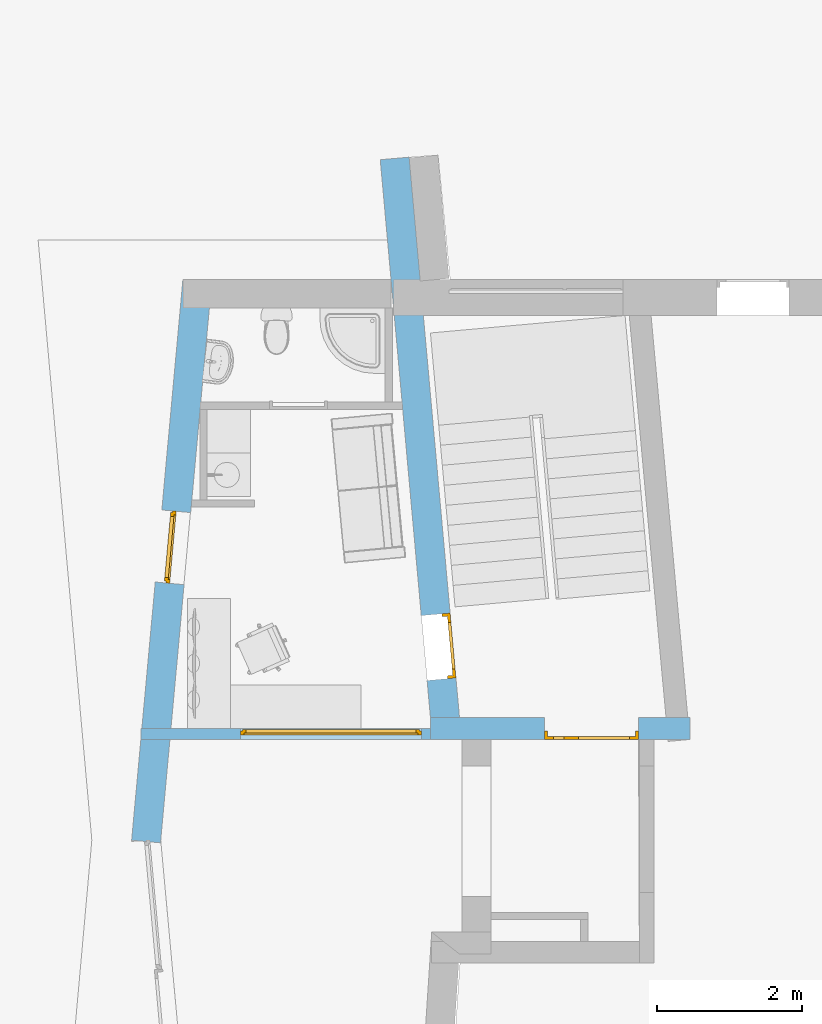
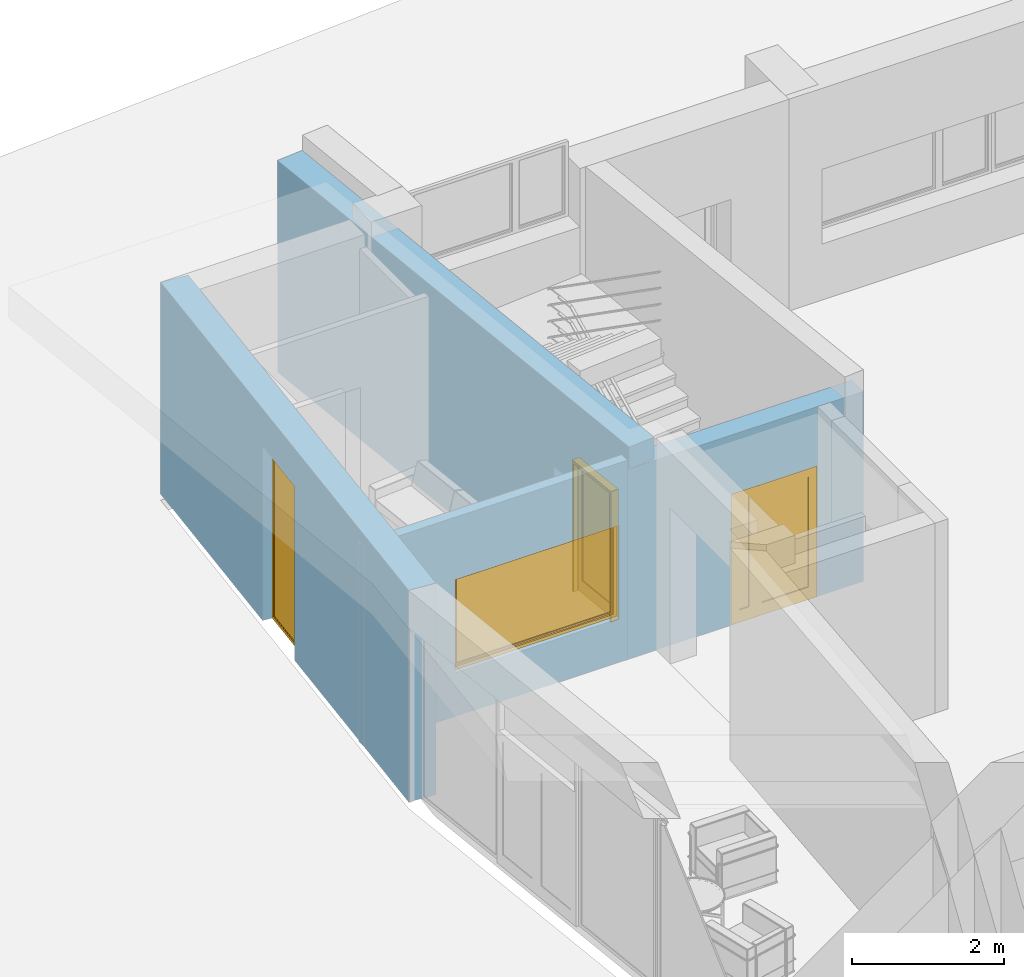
# One storey, part 15 of 36: 2 doors, 2 windows, 4 openings, plus 4 elements that do not belong to this part.
"""IFC2X3 building model written with IfcOpenShell, lengths in millimetres."""

from ifc_helpers import new_model, entity, si_unit, converted_unit, money_unit, direction, frame, origin_with_axes, place, context, subcontext, project, spatial, polyline, outline, extrude, open_shell, faceted_brep, surface_model, material, material_list, layer, layer_set, layer_usage, type_object, element, fill, save


model = new_model("IFC2X3")

# Units and contexts
model_context = context("Model", 3, precision=1e-05, world=origin_with_axes(), true_north=direction((0.0, 1.0)))
body_context = subcontext(model_context, "Body", "Model", "MODEL_VIEW")
ifc_project = project(units=[si_unit("LENGTHUNIT", "METRE", prefix="MILLI"), si_unit("AREAUNIT", "SQUARE_METRE"), si_unit("VOLUMEUNIT", "CUBIC_METRE"), converted_unit("PLANEANGLEUNIT", "DEGREE", entity("IfcPlaneAngleMeasure", 0.0174532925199), si_unit("PLANEANGLEUNIT", "RADIAN"), dimensions=[0, 0, 0, 0, 0, 0, 0]), si_unit("SOLIDANGLEUNIT", "STERADIAN"), money_unit("USD"), converted_unit("TIMEUNIT", "Year", entity("IfcTimeMeasure", 31556926.0), si_unit("TIMEUNIT", "SECOND"), dimensions=[0, 0, 0, 0, 0, 0, 0]), si_unit("MASSUNIT", "GRAM"), si_unit("THERMODYNAMICTEMPERATUREUNIT", "DEGREE_CELSIUS"), si_unit("LUMINOUSINTENSITYUNIT", "LUMEN")], contexts=[model_context])

# Site, building, storey
site_placement = place(None, origin_with_axes())
site = spatial("IfcSite", under=ifc_project, at=site_placement, Name="Site", CompositionType="ELEMENT")
building_placement = place(site_placement, origin_with_axes())
building = spatial("IfcBuilding", under=site, at=building_placement, Name="Building", CompositionType="ELEMENT")
storey_placement = place(building_placement, frame((0.0, 0.0, -3400.0), z_axis=(0.0, 0.0, 1.0), x_axis=(1.0, 0.0, 0.0)))
storey = spatial("IfcBuildingStorey", under=building, at=storey_placement, Name="1KORRUS", CompositionType="ELEMENT", Elevation=-3400.0)

# Wall, opening, door
ifc_material_1 = material(Name="Olemasolevad seinad tellis, uus viimistlus")
ifc_layer_1 = layer(ifc_material_1, 400.0, ventilated="UNKNOWN")
ifc_layer_set_1 = layer_set([ifc_layer_1], Name="Olemasolevad seinad tellis, uus viimistlus 400")
ifc_layer_usage_1 = layer_usage(ifc_layer_set_1, "AXIS2", "POSITIVE", -400.0)
wall_type_1 = type_object("IfcWallType", Name="Olemasolevad seinad tellis, uus viimistlus 400", PredefinedType="NOTDEFINED")
wall_1_placement = place(storey_placement, frame((-54200.5997828, -10997.6526712, 0.0), z_axis=(0.0, 0.0, 1.0), x_axis=(-0.0895981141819, 0.995978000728, 0.0)))
wall_1 = element("IfcWallStandardCase", 1, at=wall_1_placement, inside=storey, type_object=wall_type_1, material=ifc_layer_usage_1, Name="VS1", ObjectType="VS1", context=body_context, shape_type="SweptSolid", body=[
    extrude(outline(polyline([(0.0, -400.0), (8042.03298677, -400.0), (8042.03298677, 0.0), (0.0, 0.0), (0.0, -400.0)])), origin_with_axes(), (0.0, 0.0, 1.0), 3400.0),
])
opening_1_placement = place(wall_1_placement, frame((1267.27481018, 0.0, 0.0), z_axis=(0.0, 0.0, 1.0), x_axis=(1.0, 0.0, 0.0)))
opening_1 = element("IfcOpeningElement", 2, at=opening_1_placement, cuts=wall_1, Name="SU7", context=body_context, shape_type="SweptSolid", body=[
    extrude(outline(polyline([(-450.0, -2100.0), (450.0, -2100.0), (450.0, 0.0), (-450.0, 0.0), (-450.0, -2100.0)])), frame((0.0, 400.0, 0.0), z_axis=(0.0, -1.0, 0.0), x_axis=(-1.0, 0.0, 0.0)), (0.0, 0.0, 1.0), 1200.0),
])
ifc_material_2 = material(Name="Background")
ifc_material_list = material_list([ifc_material_2])
door_style_1 = type_object("IfcDoorStyle", Name="Door 19", ConstructionType="NOTDEFINED", OperationType="SINGLE_SWING_RIGHT", ParameterTakesPrecedence=False, Sizeable=False)
door_1_placement = place(opening_1_placement, frame((450.0, 0.0, 0.0), z_axis=(0.0, 0.0, 1.0), x_axis=(-1.0, 0.0, 0.0)))
door_1 = element("IfcDoor", 3, at=door_1_placement, inside=storey, type_object=door_style_1, material=ifc_material_list, Name="SU7", ObjectType="Trepkoja uks", OverallHeight=2100.0, OverallWidth=900.0, context=body_context, shape_type="SurfaceModel", body=[
    faceted_brep([(40.0, 360.0, 0.0), (40.0, 360.0, 2060.0), (40.0, 285.0, 2060.0), (40.0, 285.0, 0.0), (28.0, 360.0, 2060.0), (28.0, 360.0, 0.0), (28.0, 400.0, 2060.0), (0.0, 400.0, 2060.0), (0.0, 285.0, 2060.0), (0.0, 285.0, 0.0), (0.0, 400.0, 0.0), (28.0, 400.0, 0.0)], [[[0, 1, 2, 3]], [[4, 1, 0, 5]], [[4, 6, 7, 8, 2, 1]], [[2, 8, 9, 3]], [[5, 0, 3, 9, 10, 11]], [[6, 4, 5, 11]], [[6, 11, 10, 7]], [[9, 8, 7, 10]]]),
    faceted_brep([(872.0, 360.0, 2060.0), (860.0, 360.0, 2060.0), (860.0, 285.0, 2060.0), (900.0, 285.0, 2060.0), (900.0, 400.0, 2060.0), (872.0, 400.0, 2060.0), (872.0, 360.0, 0.0), (860.0, 360.0, 0.0), (860.0, 285.0, 0.0), (900.0, 285.0, 0.0), (900.0, 400.0, 0.0), (872.0, 400.0, 0.0)], [[[0, 1, 2, 3, 4, 5]], [[1, 0, 6, 7]], [[1, 7, 8, 2]], [[2, 8, 9, 3]], [[3, 9, 10, 4]], [[11, 5, 4, 10]], [[0, 5, 11, 6]], [[6, 11, 10, 9, 8, 7]]]),
    faceted_brep([(28.0, 400.0, 2072.0), (28.0, 400.0, 2060.0), (0.0, 400.0, 2060.0), (0.0, 400.0, 2100.0), (900.0, 400.0, 2100.0), (900.0, 400.0, 2060.0), (872.0, 400.0, 2060.0), (872.0, 400.0, 2072.0), (28.0, 360.0, 2072.0), (28.0, 360.0, 2060.0), (40.0, 360.0, 2060.0), (40.0, 285.0, 2060.0), (0.0, 285.0, 2060.0), (0.0, 285.0, 2100.0), (900.0, 285.0, 2100.0), (900.0, 285.0, 2060.0), (872.0, 360.0, 2060.0), (860.0, 285.0, 2060.0), (860.0, 360.0, 2060.0), (872.0, 360.0, 2072.0)], [[[0, 1, 2, 3, 4, 5, 6, 7]], [[1, 0, 8, 9]], [[9, 10, 11, 12, 2, 1]], [[12, 13, 3, 2]], [[13, 14, 4, 3]], [[14, 15, 5, 4]], [[16, 6, 5, 15, 17, 18]], [[7, 6, 16, 19]], [[0, 7, 19, 8]], [[16, 18, 10, 9, 8, 19]], [[10, 18, 17, 11]], [[15, 14, 13, 12, 11, 17]]]),
    faceted_brep([(872.0, 400.0, 200.0), (872.0, 360.0, 200.0), (772.0, 360.0, 200.0), (772.0, 400.0, 200.0), (872.0, 400.0, 1972.0), (872.0, 360.0, 1972.0), (772.0, 360.0, 1972.0), (772.0, 400.0, 1972.0)], [[[0, 1, 2, 3]], [[4, 5, 1, 0]], [[1, 5, 6, 2]], [[3, 2, 6, 7]], [[0, 3, 7, 4]], [[7, 6, 5, 4]]]),
    faceted_brep([(28.0, 400.0, 200.0), (28.0, 360.0, 200.0), (28.0, 360.0, 1972.0), (28.0, 400.0, 1972.0), (128.0, 400.0, 200.0), (128.0, 360.0, 200.0), (128.0, 360.0, 1972.0), (128.0, 400.0, 1972.0)], [[[0, 1, 2, 3]], [[4, 5, 1, 0]], [[1, 5, 6, 2]], [[3, 2, 6, 7]], [[0, 3, 7, 4]], [[7, 6, 5, 4]]]),
    faceted_brep([(872.0, 400.0, 0.0), (872.0, 360.0, 0.0), (28.0, 360.0, 0.0), (28.0, 400.0, 0.0), (872.0, 400.0, 200.0), (872.0, 360.0, 200.0), (772.0, 360.0, 200.0), (128.0, 360.0, 200.0), (28.0, 360.0, 200.0), (28.0, 400.0, 200.0), (128.0, 400.0, 200.0), (772.0, 400.0, 200.0)], [[[0, 1, 2, 3]], [[4, 5, 1, 0]], [[1, 5, 6, 7, 8, 2]], [[3, 2, 8, 9]], [[0, 3, 9, 10, 11, 4]], [[11, 6, 5, 4]], [[10, 7, 6, 11]], [[9, 8, 7, 10]]]),
    faceted_brep([(872.0, 400.0, 2072.0), (872.0, 360.0, 2072.0), (872.0, 360.0, 1972.0), (872.0, 400.0, 1972.0), (28.0, 400.0, 2072.0), (28.0, 360.0, 2072.0), (28.0, 360.0, 1972.0), (128.0, 360.0, 1972.0), (772.0, 360.0, 1972.0), (772.0, 400.0, 1972.0), (128.0, 400.0, 1972.0), (28.0, 400.0, 1972.0)], [[[0, 1, 2, 3]], [[4, 5, 1, 0]], [[1, 5, 6, 7, 8, 2]], [[3, 2, 8, 9]], [[0, 3, 9, 10, 11, 4]], [[11, 6, 5, 4]], [[10, 7, 6, 11]], [[9, 8, 7, 10]]]),
    surface_model("IfcShellBasedSurfaceModel", [(772.0, 386.0, 200.0), (128.0, 386.0, 200.0), (128.0, 386.0, 1972.0), (772.0, 386.0, 1972.0)], [open_shell([[[0, 1, 2, 3]]])]),
    surface_model("IfcShellBasedSurfaceModel", [(772.0, 374.0, 200.0), (772.0, 374.0, 1972.0), (128.0, 374.0, 1972.0), (128.0, 374.0, 200.0)], [open_shell([[[0, 1, 2, 3]]])]),
])
fill(opening_1, door_1)

# Wall, opening, window
ifc_material_3 = material(Name="Plaat")
ifc_layer_2 = layer(ifc_material_3, 200.0, ventilated="UNKNOWN")
ifc_material_4 = material(Name="Kergplokk")
ifc_layer_3 = layer(ifc_material_4, 200.0, ventilated="UNKNOWN")
ifc_layer_set_2 = layer_set([ifc_layer_2, ifc_layer_3], Name="VS2 Uus välissein kergplokk, soojustus, plaat (1)")
ifc_layer_usage_2 = layer_usage(ifc_layer_set_2, "AXIS2", "POSITIVE", 0.0)
wall_type_2 = type_object("IfcWallType", Name="VS2 Uus välissein kergplokk, soojustus, plaat 400", PredefinedType="NOTDEFINED")
wall_2_placement = place(storey_placement, frame((-57647.6401026, -4639.6041088, 0.0), z_axis=(0.0, 0.0, 1.0), x_axis=(-0.0910473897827, -0.995846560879, 0.0)))
wall_2 = element("IfcWallStandardCase", 4, at=wall_2_placement, inside=storey, type_object=wall_type_2, material=ifc_layer_usage_2, Name="VS2", ObjectType="VS2", context=body_context, shape_type="SweptSolid", body=[
    extrude(outline(polyline([(0.0, 0.0), (7782.94701514, 0.0), (7782.94701514, 400.0), (0.0, 400.0), (0.0, 0.0)])), origin_with_axes(), (0.0, 0.0, 1.0), 3400.0),
])
opening_2_placement = place(wall_2_placement, frame((3700.47568356, 0.0, 0.0), z_axis=(0.0, 0.0, 1.0), x_axis=(1.0, 0.0, 0.0)))
opening_2 = element("IfcOpeningElement", 5, at=opening_2_placement, cuts=wall_2, Name="A6", context=body_context, shape_type="SweptSolid", body=[
    extrude(outline(polyline([(500.0, 2800.0), (-500.0, 2800.0), (-500.0, 0.0), (500.0, 0.0), (500.0, 2800.0)])), frame((0.0, 150.0, 0.0), z_axis=(0.0, 1.0, 0.0), x_axis=(-1.0, 0.0, 0.0)), (0.0, 0.0, 1.0), 650.0),
    extrude(outline(polyline([(500.0, 0.0), (-500.0, 0.0), (-500.0, -2800.0), (500.0, -2800.0), (500.0, 0.0)])), frame((0.0, 150.0, 0.0), z_axis=(0.0, -1.0, 0.0), x_axis=(-1.0, 0.0, 0.0)), (0.0, 0.0, 1.0), 550.0),
])
window_style_1 = type_object("IfcWindowStyle", Name="Window 19", ConstructionType="NOTDEFINED", OperationType="SINGLE_PANEL", ParameterTakesPrecedence=False, Sizeable=False)
window_1_placement = place(opening_2_placement, frame((500.0, 0.0, 0.0), z_axis=(0.0, 0.0, 1.0), x_axis=(-1.0, 0.0, 0.0)))
window_1 = element("IfcWindow", 6, at=window_1_placement, inside=storey, type_object=window_style_1, material=ifc_material_list, Name="A6", ObjectType="A6", OverallHeight=2800.0, OverallWidth=1000.0, context=body_context, shape_type="SurfaceModel", body=[
    faceted_brep([(975.0, -150.0, 2750.0), (975.0, -175.0, 2750.0), (950.0, -175.0, 2750.0), (950.0, -200.0, 2750.0), (1000.0, -200.0, 2750.0), (1000.0, -150.0, 2750.0), (975.0, -150.0, 50.0), (975.0, -175.0, 50.0), (950.0, -175.0, 50.0), (950.0, -200.0, 50.0), (1000.0, -200.0, 50.0), (1000.0, -150.0, 50.0)], [[[0, 1, 2, 3, 4, 5]], [[1, 0, 6, 7]], [[8, 2, 1, 7]], [[2, 8, 9, 3]], [[4, 3, 9, 10]], [[5, 4, 10, 11]], [[6, 0, 5, 11]], [[7, 6, 11, 10, 9, 8]]]),
    faceted_brep([(50.0, -175.0, 2750.0), (25.0, -175.0, 2750.0), (25.0, -150.0, 2750.0), (0.0, -150.0, 2750.0), (0.0, -200.0, 2750.0), (50.0, -200.0, 2750.0), (50.0, -175.0, 50.0), (25.0, -175.0, 50.0), (25.0, -150.0, 50.0), (0.0, -150.0, 50.0), (0.0, -200.0, 50.0), (50.0, -200.0, 50.0)], [[[0, 1, 2, 3, 4, 5]], [[1, 0, 6, 7]], [[8, 2, 1, 7]], [[2, 8, 9, 3]], [[9, 10, 4, 3]], [[10, 11, 5, 4]], [[6, 0, 5, 11]], [[7, 6, 11, 10, 9, 8]]]),
    faceted_brep([(50.0, -175.0, 50.0), (25.0, -175.0, 50.0), (25.0, -150.0, 50.0), (0.0, -150.0, 50.0), (0.0, -200.0, 50.0), (50.0, -200.0, 50.0), (950.0, -175.0, 50.0), (975.0, -175.0, 50.0), (975.0, -175.0, 25.0), (25.0, -175.0, 25.0), (25.0, -150.0, 25.0), (975.0, -150.0, 25.0), (975.0, -150.0, 50.0), (1000.0, -150.0, 50.0), (1000.0, -150.0, 0.0), (0.0, -150.0, 0.0), (0.0, -200.0, 0.0), (1000.0, -200.0, 50.0), (950.0, -200.0, 50.0), (1000.0, -200.0, 0.0)], [[[0, 1, 2, 3, 4, 5]], [[1, 0, 6, 7, 8, 9]], [[10, 2, 1, 9]], [[11, 12, 13, 14, 15, 3, 2, 10]], [[15, 16, 4, 3]], [[17, 18, 5, 4, 16, 19]], [[6, 0, 5, 18]], [[7, 6, 18, 17, 13, 12]], [[7, 12, 11, 8]], [[11, 10, 9, 8]], [[13, 17, 19, 14]], [[14, 19, 16, 15]]]),
    faceted_brep([(975.0, -150.0, 2750.0), (975.0, -150.0, 2775.0), (25.0, -150.0, 2775.0), (25.0, -150.0, 2750.0), (0.0, -150.0, 2750.0), (0.0, -150.0, 2800.0), (1000.0, -150.0, 2800.0), (1000.0, -150.0, 2750.0), (975.0, -175.0, 2750.0), (975.0, -175.0, 2775.0), (25.0, -175.0, 2775.0), (25.0, -175.0, 2750.0), (50.0, -175.0, 2750.0), (50.0, -200.0, 2750.0), (0.0, -200.0, 2750.0), (0.0, -200.0, 2800.0), (1000.0, -200.0, 2800.0), (1000.0, -200.0, 2750.0), (950.0, -200.0, 2750.0), (950.0, -175.0, 2750.0)], [[[0, 1, 2, 3, 4, 5, 6, 7]], [[1, 0, 8, 9]], [[2, 1, 9, 10]], [[3, 2, 10, 11]], [[11, 12, 13, 14, 4, 3]], [[4, 14, 15, 5]], [[5, 15, 16, 6]], [[6, 16, 17, 7]], [[8, 0, 7, 17, 18, 19]], [[12, 11, 10, 9, 8, 19]], [[12, 19, 18, 13]], [[14, 13, 18, 17, 16, 15]]]),
    faceted_brep([(925.0, -175.0, 2725.0), (975.0, -175.0, 2725.0), (975.0, -125.0, 2725.0), (925.0, -125.0, 2725.0), (925.0, -175.0, 75.0), (975.0, -175.0, 75.0), (975.0, -125.0, 75.0), (925.0, -125.0, 75.0)], [[[0, 1, 2, 3]], [[0, 4, 5, 1]], [[1, 5, 6, 2]], [[3, 2, 6, 7]], [[4, 0, 3, 7]], [[5, 4, 7, 6]]]),
    faceted_brep([(75.0, -175.0, 75.0), (25.0, -175.0, 75.0), (25.0, -125.0, 75.0), (75.0, -125.0, 75.0), (75.0, -175.0, 2725.0), (25.0, -175.0, 2725.0), (25.0, -125.0, 2725.0), (75.0, -125.0, 2725.0)], [[[0, 1, 2, 3]], [[0, 4, 5, 1]], [[1, 5, 6, 2]], [[3, 2, 6, 7]], [[4, 0, 3, 7]], [[5, 4, 7, 6]]]),
    faceted_brep([(25.0, -175.0, 25.0), (25.0, -175.0, 75.0), (25.0, -125.0, 75.0), (25.0, -125.0, 25.0), (975.0, -175.0, 25.0), (975.0, -175.0, 75.0), (925.0, -175.0, 75.0), (75.0, -175.0, 75.0), (75.0, -125.0, 75.0), (925.0, -125.0, 75.0), (975.0, -125.0, 75.0), (975.0, -125.0, 25.0)], [[[0, 1, 2, 3]], [[0, 4, 5, 6, 7, 1]], [[1, 7, 8, 2]], [[3, 2, 8, 9, 10, 11]], [[4, 0, 3, 11]], [[5, 4, 11, 10]], [[6, 5, 10, 9]], [[7, 6, 9, 8]]]),
    faceted_brep([(975.0, -175.0, 2775.0), (975.0, -175.0, 2725.0), (975.0, -125.0, 2725.0), (975.0, -125.0, 2775.0), (25.0, -175.0, 2775.0), (25.0, -175.0, 2725.0), (75.0, -175.0, 2725.0), (925.0, -175.0, 2725.0), (925.0, -125.0, 2725.0), (75.0, -125.0, 2725.0), (25.0, -125.0, 2725.0), (25.0, -125.0, 2775.0)], [[[0, 1, 2, 3]], [[0, 4, 5, 6, 7, 1]], [[1, 7, 8, 2]], [[3, 2, 8, 9, 10, 11]], [[4, 0, 3, 11]], [[5, 4, 11, 10]], [[6, 5, 10, 9]], [[7, 6, 9, 8]]]),
    surface_model("IfcShellBasedSurfaceModel", [(925.0, -160.0, 75.0), (925.0, -160.0, 2725.0), (75.0, -160.0, 2725.0), (75.0, -160.0, 75.0)], [open_shell([[[0, 1, 2, 3]]])]),
    surface_model("IfcShellBasedSurfaceModel", [(925.0, -140.0, 75.0), (75.0, -140.0, 75.0), (75.0, -140.0, 2725.0), (925.0, -140.0, 2725.0)], [open_shell([[[0, 1, 2, 3]]])]),
])
fill(opening_2, window_1)

ifc_material_5 = material(Name="UmbKipsplaat")
ifc_layer_4 = layer(ifc_material_5, 13.0, ventilated="UNKNOWN")
ifc_layer_5 = layer(ifc_material_5, 13.0, ventilated="UNKNOWN")
ifc_material_6 = material(Name="SOOJUSTUS MINERAALVILL")
ifc_layer_6 = layer(ifc_material_6, 98.0, ventilated="UNKNOWN")
ifc_layer_7 = layer(ifc_material_5, 13.0, ventilated="UNKNOWN")
ifc_layer_8 = layer(ifc_material_5, 13.0, ventilated="UNKNOWN")
ifc_layer_set_3 = layer_set([ifc_layer_4, ifc_layer_5, ifc_layer_6, ifc_layer_7, ifc_layer_8], Name="kipssein150")
ifc_layer_usage_3 = layer_usage(ifc_layer_set_3, "AXIS2", "POSITIVE", 0.0)
wall_type_3 = type_object("IfcWallType", Name="kipssein150 150", PredefinedType="NOTDEFINED")
wall_3_placement = place(storey_placement, frame((-58228.9382147, -10997.6526712, 0.0), z_axis=(0.0, 0.0, 1.0), x_axis=(1.0, 0.0, 0.0)))
wall_3 = element("IfcWallStandardCase", 7, at=wall_3_placement, inside=storey, type_object=wall_type_3, material=ifc_layer_usage_3, Name="SS1", ObjectType="SS1", context=body_context, shape_type="SweptSolid", body=[
    extrude(outline(polyline([(0.0, 0.0), (4001.35045199, 0.0), (4001.35045199, 150.0), (0.0, 150.0), (0.0, 0.0)])), origin_with_axes(), (0.0, 0.0, 1.0), 3200.0),
])
opening_3_placement = place(wall_3_placement, frame((2628.33843188, 0.0, 700.0), z_axis=(0.0, 0.0, 1.0), x_axis=(1.0, 0.0, 0.0)))
opening_3 = element("IfcOpeningElement", 8, at=opening_3_placement, cuts=wall_3, Name="SA1", context=body_context, shape_type="SweptSolid", body=[
    extrude(outline(polyline([(-1250.0, 0.0), (-1250.0, -1500.0), (1250.0, -1500.0), (1250.0, 0.0), (-1250.0, 0.0)])), frame((0.0, 64.0, 0.0), z_axis=(0.0, 1.0, 0.0), x_axis=(1.0, 0.0, 0.0)), (0.0, 0.0, 1.0), 236.0),
    extrude(outline(polyline([(-1250.0, 1500.0), (-1250.0, 0.0), (1250.0, 0.0), (1250.0, 1500.0), (-1250.0, 1500.0)])), frame((0.0, 64.0, 0.0), z_axis=(0.0, -1.0, 0.0), x_axis=(1.0, 0.0, 0.0)), (0.0, 0.0, 1.0), 214.0),
])
window_style_2 = type_object("IfcWindowStyle", Name="Window 19", ConstructionType="NOTDEFINED", OperationType="SINGLE_PANEL", ParameterTakesPrecedence=False, Sizeable=False)
window_2_placement = place(opening_3_placement, frame((-1250.0, 0.0, 0.0), z_axis=(0.0, 0.0, 1.0), x_axis=(1.0, 0.0, 0.0)))
window_2 = element("IfcWindow", 9, at=window_2_placement, inside=storey, type_object=window_style_2, material=ifc_material_list, Name="SA1", ObjectType="KLA1", OverallHeight=1500.0, OverallWidth=2500.0, context=body_context, shape_type="SurfaceModel", body=[
    faceted_brep([(25.0, 114.0, 1450.0), (0.0, 114.0, 1450.0), (0.0, 64.0, 1450.0), (50.0, 64.0, 1450.0), (50.0, 89.0, 1450.0), (25.0, 89.0, 1450.0), (25.0, 114.0, 50.0), (0.0, 114.0, 50.0), (0.0, 64.0, 50.0), (50.0, 64.0, 50.0), (50.0, 89.0, 50.0), (25.0, 89.0, 50.0)], [[[0, 1, 2, 3, 4, 5]], [[6, 7, 1, 0]], [[1, 7, 8, 2]], [[2, 8, 9, 3]], [[4, 3, 9, 10]], [[10, 11, 5, 4]], [[5, 11, 6, 0]], [[11, 10, 9, 8, 7, 6]]]),
    faceted_brep([(2450.0, 89.0, 1450.0), (2450.0, 64.0, 1450.0), (2500.0, 64.0, 1450.0), (2500.0, 114.0, 1450.0), (2475.0, 114.0, 1450.0), (2475.0, 89.0, 1450.0), (2450.0, 89.0, 50.0), (2450.0, 64.0, 50.0), (2500.0, 64.0, 50.0), (2500.0, 114.0, 50.0), (2475.0, 114.0, 50.0), (2475.0, 89.0, 50.0)], [[[0, 1, 2, 3, 4, 5]], [[6, 7, 1, 0]], [[8, 2, 1, 7]], [[9, 3, 2, 8]], [[4, 3, 9, 10]], [[10, 11, 5, 4]], [[5, 11, 6, 0]], [[11, 10, 9, 8, 7, 6]]]),
    faceted_brep([(2450.0, 89.0, 50.0), (2450.0, 64.0, 50.0), (2500.0, 64.0, 50.0), (2500.0, 114.0, 50.0), (2475.0, 114.0, 50.0), (2475.0, 89.0, 50.0), (50.0, 89.0, 50.0), (50.0, 64.0, 50.0), (0.0, 64.0, 50.0), (0.0, 64.0, 0.0), (2500.0, 64.0, 0.0), (2500.0, 114.0, 0.0), (25.0, 114.0, 25.0), (2475.0, 114.0, 25.0), (0.0, 114.0, 0.0), (0.0, 114.0, 50.0), (25.0, 114.0, 50.0), (2475.0, 89.0, 25.0), (25.0, 89.0, 25.0), (25.0, 89.0, 50.0)], [[[0, 1, 2, 3, 4, 5]], [[6, 7, 1, 0]], [[8, 9, 10, 2, 1, 7]], [[11, 3, 2, 10]], [[12, 13, 4, 3, 11, 14, 15, 16]], [[13, 17, 5, 4]], [[5, 17, 18, 19, 6, 0]], [[19, 16, 15, 8, 7, 6]], [[15, 14, 9, 8]], [[14, 11, 10, 9]], [[12, 18, 17, 13]], [[19, 18, 12, 16]]]),
    faceted_brep([(25.0, 114.0, 1450.0), (0.0, 114.0, 1450.0), (0.0, 114.0, 1500.0), (2500.0, 114.0, 1500.0), (2500.0, 114.0, 1450.0), (2475.0, 114.0, 1450.0), (2475.0, 114.0, 1475.0), (25.0, 114.0, 1475.0), (25.0, 89.0, 1450.0), (50.0, 89.0, 1450.0), (50.0, 64.0, 1450.0), (0.0, 64.0, 1450.0), (0.0, 64.0, 1500.0), (2500.0, 64.0, 1500.0), (2500.0, 64.0, 1450.0), (2475.0, 89.0, 1450.0), (2450.0, 64.0, 1450.0), (2450.0, 89.0, 1450.0), (2475.0, 89.0, 1475.0), (25.0, 89.0, 1475.0)], [[[0, 1, 2, 3, 4, 5, 6, 7]], [[8, 9, 10, 11, 1, 0]], [[2, 1, 11, 12]], [[3, 2, 12, 13]], [[4, 3, 13, 14]], [[15, 5, 4, 14, 16, 17]], [[5, 15, 18, 6]], [[6, 18, 19, 7]], [[7, 19, 8, 0]], [[17, 9, 8, 19, 18, 15]], [[17, 16, 10, 9]], [[14, 13, 12, 11, 10, 16]]]),
    faceted_brep([(75.0, 89.0, 1425.0), (75.0, 139.0, 1425.0), (25.0, 139.0, 1425.0), (25.0, 89.0, 1425.0), (75.0, 89.0, 75.0), (75.0, 139.0, 75.0), (25.0, 139.0, 75.0), (25.0, 89.0, 75.0)], [[[0, 1, 2, 3]], [[4, 5, 1, 0]], [[1, 5, 6, 2]], [[3, 2, 6, 7]], [[0, 3, 7, 4]], [[7, 6, 5, 4]]]),
    faceted_brep([(2425.0, 89.0, 75.0), (2425.0, 139.0, 75.0), (2475.0, 139.0, 75.0), (2475.0, 89.0, 75.0), (2425.0, 89.0, 1425.0), (2425.0, 139.0, 1425.0), (2475.0, 139.0, 1425.0), (2475.0, 89.0, 1425.0)], [[[0, 1, 2, 3]], [[4, 5, 1, 0]], [[1, 5, 6, 2]], [[3, 2, 6, 7]], [[0, 3, 7, 4]], [[7, 6, 5, 4]]]),
    faceted_brep([(2475.0, 89.0, 25.0), (2475.0, 139.0, 25.0), (2475.0, 139.0, 75.0), (2475.0, 89.0, 75.0), (25.0, 89.0, 25.0), (25.0, 139.0, 25.0), (25.0, 139.0, 75.0), (75.0, 139.0, 75.0), (2425.0, 139.0, 75.0), (2425.0, 89.0, 75.0), (75.0, 89.0, 75.0), (25.0, 89.0, 75.0)], [[[0, 1, 2, 3]], [[4, 5, 1, 0]], [[1, 5, 6, 7, 8, 2]], [[3, 2, 8, 9]], [[0, 3, 9, 10, 11, 4]], [[11, 6, 5, 4]], [[10, 7, 6, 11]], [[9, 8, 7, 10]]]),
    faceted_brep([(25.0, 89.0, 1475.0), (25.0, 139.0, 1475.0), (25.0, 139.0, 1425.0), (25.0, 89.0, 1425.0), (2475.0, 89.0, 1475.0), (2475.0, 139.0, 1475.0), (2475.0, 139.0, 1425.0), (2425.0, 139.0, 1425.0), (75.0, 139.0, 1425.0), (75.0, 89.0, 1425.0), (2425.0, 89.0, 1425.0), (2475.0, 89.0, 1425.0)], [[[0, 1, 2, 3]], [[4, 5, 1, 0]], [[1, 5, 6, 7, 8, 2]], [[3, 2, 8, 9]], [[0, 3, 9, 10, 11, 4]], [[11, 6, 5, 4]], [[10, 7, 6, 11]], [[9, 8, 7, 10]]]),
    surface_model("IfcShellBasedSurfaceModel", [(75.0, 104.0, 75.0), (2425.0, 104.0, 75.0), (2425.0, 104.0, 1425.0), (75.0, 104.0, 1425.0)], [open_shell([[[0, 1, 2, 3]]])]),
    surface_model("IfcShellBasedSurfaceModel", [(75.0, 124.0, 75.0), (75.0, 124.0, 1425.0), (2425.0, 124.0, 1425.0), (2425.0, 124.0, 75.0)], [open_shell([[[0, 1, 2, 3]]])]),
])
fill(opening_3, window_2)

# Wall, opening, door
ifc_material_7 = material(Name="Olemasolevad seinad tellis, uus viimistlus")
ifc_layer_9 = layer(ifc_material_7, 300.0, ventilated="UNKNOWN")
ifc_layer_set_4 = layer_set([ifc_layer_9], Name="Olemasolevad seinad tellis, uus viimistlus  300")
ifc_layer_usage_4 = layer_usage(ifc_layer_set_4, "AXIS2", "POSITIVE", 0.0)
wall_type_4 = type_object("IfcWallType", Name="Olemasolevad seinad tellis, uus viimistlus  300", PredefinedType="NOTDEFINED")
wall_4_placement = place(storey_placement, frame((-54227.5877627, -10997.6526712, 0.0), z_axis=(0.0, 0.0, 1.0), x_axis=(1.0, 0.0, 0.0)))
wall_4 = element("IfcWallStandardCase", 10, at=wall_4_placement, inside=storey, type_object=wall_type_4, material=ifc_layer_usage_4, Name="KS1", ObjectType="KS1", context=body_context, shape_type="SweptSolid", body=[
    extrude(outline(polyline([(0.0, 0.0), (3583.80950921, 0.0), (3583.80950921, 300.0), (0.0, 300.0), (0.0, 0.0)])), origin_with_axes(), (0.0, 0.0, 1.0), 3050.0),
])
opening_4_placement = place(wall_4_placement, frame((2225.04730344, 0.0, 0.0), z_axis=(0.0, 0.0, 1.0), x_axis=(1.0, 0.0, 0.0)))
opening_4 = element("IfcOpeningElement", 11, at=opening_4_placement, cuts=wall_4, Name="SU4-1", context=body_context, shape_type="SweptSolid", body=[
    extrude(outline(polyline([(650.0, -2100.0), (650.0, 0.0), (-650.0, 0.0), (-650.0, -2100.0), (650.0, -2100.0)])), frame((0.0, 300.0, 0.0), z_axis=(0.0, -1.0, 0.0), x_axis=(-1.0, 0.0, 0.0)), (0.0, 0.0, 1.0), 900.0),
])
door_style_2 = type_object("IfcDoorStyle", Name="Double Door Asymmetric 19", ConstructionType="NOTDEFINED", OperationType="DOUBLE_DOOR_SINGLE_SWING", ParameterTakesPrecedence=False, Sizeable=False)
door_2_placement = place(opening_4_placement, frame((650.0, 0.0, 0.0), z_axis=(0.0, 0.0, 1.0), x_axis=(-1.0, 0.0, 0.0)))
door_2 = element("IfcDoor", 12, at=door_2_placement, inside=storey, type_object=door_style_2, material=ifc_material_list, Name="SU4-1", ObjectType="Trepkoja uks", OverallHeight=2100.0, OverallWidth=1300.0, context=body_context, shape_type="SurfaceModel", body=[
    faceted_brep([(1260.0, -40.0, 0.0), (1260.0, -115.0, 0.0), (1260.0, -115.0, 2060.0), (1260.0, -40.0, 2060.0), (1272.0, -40.0, 0.0), (1272.0, 0.0, 0.0), (1300.0, 0.0, 0.0), (1300.0, -115.0, 0.0), (1300.0, -115.0, 2060.0), (1272.0, -40.0, 2060.0), (1300.0, 0.0, 2060.0), (1272.0, 0.0, 2060.0)], [[[0, 1, 2, 3]], [[4, 5, 6, 7, 1, 0]], [[2, 1, 7, 8]], [[9, 3, 2, 8, 10, 11]], [[9, 4, 0, 3]], [[11, 5, 4, 9]], [[11, 10, 6, 5]], [[7, 6, 10, 8]]]),
    faceted_brep([(28.0, -40.0, 2060.0), (28.0, 0.0, 2060.0), (0.0, 0.0, 2060.0), (0.0, -115.0, 2060.0), (40.0, -115.0, 2060.0), (40.0, -40.0, 2060.0), (28.0, -40.0, 0.0), (28.0, 0.0, 0.0), (0.0, 0.0, 0.0), (0.0, -115.0, 0.0), (40.0, -115.0, 0.0), (40.0, -40.0, 0.0)], [[[0, 1, 2, 3, 4, 5]], [[0, 6, 7, 1]], [[7, 8, 2, 1]], [[3, 2, 8, 9]], [[4, 3, 9, 10]], [[5, 4, 10, 11]], [[5, 11, 6, 0]], [[6, 11, 10, 9, 8, 7]]]),
    faceted_brep([(1272.0, 0.0, 2072.0), (28.0, 0.0, 2072.0), (28.0, 0.0, 2060.0), (0.0, 0.0, 2060.0), (0.0, 0.0, 2100.0), (1300.0, 0.0, 2100.0), (1300.0, 0.0, 2060.0), (1272.0, 0.0, 2060.0), (1272.0, -40.0, 2072.0), (28.0, -40.0, 2072.0), (28.0, -40.0, 2060.0), (40.0, -40.0, 2060.0), (40.0, -115.0, 2060.0), (0.0, -115.0, 2060.0), (0.0, -115.0, 2100.0), (1300.0, -115.0, 2100.0), (1300.0, -115.0, 2060.0), (1272.0, -40.0, 2060.0), (1260.0, -115.0, 2060.0), (1260.0, -40.0, 2060.0)], [[[0, 1, 2, 3, 4, 5, 6, 7]], [[0, 8, 9, 1]], [[1, 9, 10, 2]], [[10, 11, 12, 13, 3, 2]], [[14, 4, 3, 13]], [[15, 5, 4, 14]], [[16, 6, 5, 15]], [[17, 7, 6, 16, 18, 19]], [[7, 17, 8, 0]], [[10, 9, 8, 17, 19, 11]], [[19, 18, 12, 11]], [[13, 12, 18, 16, 15, 14]]]),
    faceted_brep([(28.0, 0.0, 200.0), (128.0, 0.0, 200.0), (128.0, -40.0, 200.0), (28.0, -40.0, 200.0), (28.0, 0.0, 1972.0), (128.0, 0.0, 1972.0), (128.0, -40.0, 1972.0), (28.0, -40.0, 1972.0)], [[[0, 1, 2, 3]], [[0, 4, 5, 1]], [[1, 5, 6, 2]], [[3, 2, 6, 7]], [[4, 0, 3, 7]], [[5, 4, 7, 6]]]),
    faceted_brep([(928.0, 0.0, 200.0), (928.0, 0.0, 1972.0), (928.0, -40.0, 1972.0), (928.0, -40.0, 200.0), (828.0, 0.0, 200.0), (828.0, 0.0, 1972.0), (828.0, -40.0, 1972.0), (828.0, -40.0, 200.0)], [[[0, 1, 2, 3]], [[0, 4, 5, 1]], [[1, 5, 6, 2]], [[3, 2, 6, 7]], [[4, 0, 3, 7]], [[5, 4, 7, 6]]]),
    faceted_brep([(28.0, 0.0, 0.0), (928.0, 0.0, 0.0), (928.0, -40.0, 0.0), (28.0, -40.0, 0.0), (28.0, 0.0, 200.0), (128.0, 0.0, 200.0), (828.0, 0.0, 200.0), (928.0, 0.0, 200.0), (928.0, -40.0, 200.0), (828.0, -40.0, 200.0), (128.0, -40.0, 200.0), (28.0, -40.0, 200.0)], [[[0, 1, 2, 3]], [[0, 4, 5, 6, 7, 1]], [[1, 7, 8, 2]], [[3, 2, 8, 9, 10, 11]], [[4, 0, 3, 11]], [[5, 4, 11, 10]], [[6, 5, 10, 9]], [[7, 6, 9, 8]]]),
    faceted_brep([(28.0, 0.0, 2072.0), (28.0, 0.0, 1972.0), (28.0, -40.0, 1972.0), (28.0, -40.0, 2072.0), (928.0, 0.0, 2072.0), (928.0, 0.0, 1972.0), (828.0, 0.0, 1972.0), (128.0, 0.0, 1972.0), (128.0, -40.0, 1972.0), (828.0, -40.0, 1972.0), (928.0, -40.0, 1972.0), (928.0, -40.0, 2072.0)], [[[0, 1, 2, 3]], [[0, 4, 5, 6, 7, 1]], [[1, 7, 8, 2]], [[3, 2, 8, 9, 10, 11]], [[4, 0, 3, 11]], [[5, 4, 11, 10]], [[6, 5, 10, 9]], [[7, 6, 9, 8]]]),
    surface_model("IfcShellBasedSurfaceModel", [(128.0, -14.0, 200.0), (128.0, -14.0, 1972.0), (828.0, -14.0, 1972.0), (828.0, -14.0, 200.0)], [open_shell([[[0, 1, 2, 3]]])]),
    surface_model("IfcShellBasedSurfaceModel", [(128.0, -26.0, 200.0), (828.0, -26.0, 200.0), (828.0, -26.0, 1972.0), (128.0, -26.0, 1972.0)], [open_shell([[[0, 1, 2, 3]]])]),
    faceted_brep([(1272.0, 0.0, 200.0), (1272.0, -40.0, 200.0), (1172.0, -40.0, 200.0), (1172.0, 0.0, 200.0), (1272.0, 0.0, 1972.0), (1272.0, -40.0, 1972.0), (1172.0, -40.0, 1972.0), (1172.0, 0.0, 1972.0)], [[[0, 1, 2, 3]], [[4, 5, 1, 0]], [[1, 5, 6, 2]], [[3, 2, 6, 7]], [[0, 3, 7, 4]], [[7, 6, 5, 4]]]),
    faceted_brep([(928.0, 0.0, 200.0), (928.0, -40.0, 200.0), (928.0, -40.0, 1972.0), (928.0, 0.0, 1972.0), (1028.0, 0.0, 200.0), (1028.0, -40.0, 200.0), (1028.0, -40.0, 1972.0), (1028.0, 0.0, 1972.0)], [[[0, 1, 2, 3]], [[4, 5, 1, 0]], [[1, 5, 6, 2]], [[3, 2, 6, 7]], [[0, 3, 7, 4]], [[7, 6, 5, 4]]]),
    faceted_brep([(1272.0, 0.0, 0.0), (1272.0, -40.0, 0.0), (928.0, -40.0, 0.0), (928.0, 0.0, 0.0), (1272.0, 0.0, 200.0), (1272.0, -40.0, 200.0), (1172.0, -40.0, 200.0), (1028.0, -40.0, 200.0), (928.0, -40.0, 200.0), (928.0, 0.0, 200.0), (1028.0, 0.0, 200.0), (1172.0, 0.0, 200.0)], [[[0, 1, 2, 3]], [[4, 5, 1, 0]], [[1, 5, 6, 7, 8, 2]], [[3, 2, 8, 9]], [[0, 3, 9, 10, 11, 4]], [[11, 6, 5, 4]], [[10, 7, 6, 11]], [[9, 8, 7, 10]]]),
    faceted_brep([(1272.0, 0.0, 2072.0), (1272.0, -40.0, 2072.0), (1272.0, -40.0, 1972.0), (1272.0, 0.0, 1972.0), (928.0, 0.0, 2072.0), (928.0, -40.0, 2072.0), (928.0, -40.0, 1972.0), (1028.0, -40.0, 1972.0), (1172.0, -40.0, 1972.0), (1172.0, 0.0, 1972.0), (1028.0, 0.0, 1972.0), (928.0, 0.0, 1972.0)], [[[0, 1, 2, 3]], [[4, 5, 1, 0]], [[1, 5, 6, 7, 8, 2]], [[3, 2, 8, 9]], [[0, 3, 9, 10, 11, 4]], [[11, 6, 5, 4]], [[10, 7, 6, 11]], [[9, 8, 7, 10]]]),
    surface_model("IfcShellBasedSurfaceModel", [(1172.0, -14.0, 200.0), (1028.0, -14.0, 200.0), (1028.0, -14.0, 1972.0), (1172.0, -14.0, 1972.0)], [open_shell([[[0, 1, 2, 3]]])]),
    surface_model("IfcShellBasedSurfaceModel", [(1172.0, -26.0, 200.0), (1172.0, -26.0, 1972.0), (1028.0, -26.0, 1972.0), (1028.0, -26.0, 200.0)], [open_shell([[[0, 1, 2, 3]]])]),
])
fill(opening_4, door_2)

save(model, "model.ifc")
